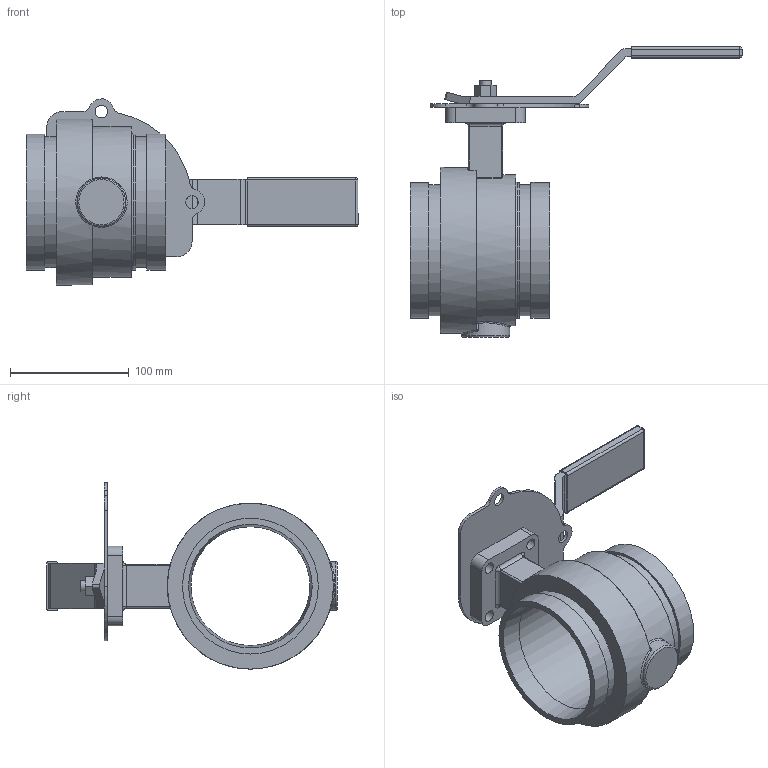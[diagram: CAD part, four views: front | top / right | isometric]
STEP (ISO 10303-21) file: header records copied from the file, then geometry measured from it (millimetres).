
FILE_DESCRIPTION(/* description */ ('Vic Series 461 Vic-300 SS w/ Lever Handle Butterfly Valve','CAx-IF Rec.Pracs.---Representation and Presentation of Product Manufacturing Information (PMI)---4.0---2014-10-13'),/* implementation_level */ '2;1');
FILE_NAME(/* name */ 'C:\Users\kkamble\AppData\Roaming\Autodesk\ApplicationPlugins\Back Up\Victaulic_SS-OGS_Valve Butterfly Vic-300 Masterseal Lever Handle_Series 461 (OGS)\Victaulic_SS-OGS_Valve Butterfly Vic-300 Masterseal Lever Handle_4 (100).stp',/* time_stamp */ '2020-09-02T14:52:26+05:00',/* author */ ('jbrannon'),/* organization */ ('Victaulic'),/* preprocessor_version */ 'ST-DEVELOPER v17.2',/* originating_system */ 'Autodesk Inventor 2019',/* authorisation */ '');
FILE_SCHEMA (('AUTOMOTIVE_DESIGN { 1 0 10303 214 3 1 1 }','AP242_MANAGED_MODEL_BASED_3D_ENGINEERING_MIM_LF { 1 0 10303 442 1 1 4 }'));
Length unit declared in the file: inch
Products named in the file (4): 461-04.0; 461-04.0_1; 461-02.0; 461-04.0_2
Assembly tree (3 placements, depth 2):
  461-04.0
    461-04.0_1
    461-02.0
    461-04.0_2
Bounding box: 279.39 x 244.6 x 156.71 mm (x, y, z)
Volume: 708830.2 mm3; surface area: 170286.6 mm2
Topology: 3 solids, 3 shells, 154 faces, 385 edges, 245 vertices
Faces by surface type: cylinder 66, plane 53, bspline 14, torus 13, sphere 6, cone 2
Full cylindrical faces by diameter (mm): 9.652 x10, 10.668 x2, 18.288 x1, 40.64 x1, 54.102 x1, 100.076 x1, 110.084 x2, 114.3 x3, 127 x1, 139.7 x1
Entity records: 5514 total; most frequent: CARTESIAN_POINT 1400, DIRECTION 827, ORIENTED_EDGE 766, EDGE_CURVE 383, AXIS2_PLACEMENT_3D 328, VERTEX_POINT 245, EDGE_LOOP 190, CIRCLE 181
